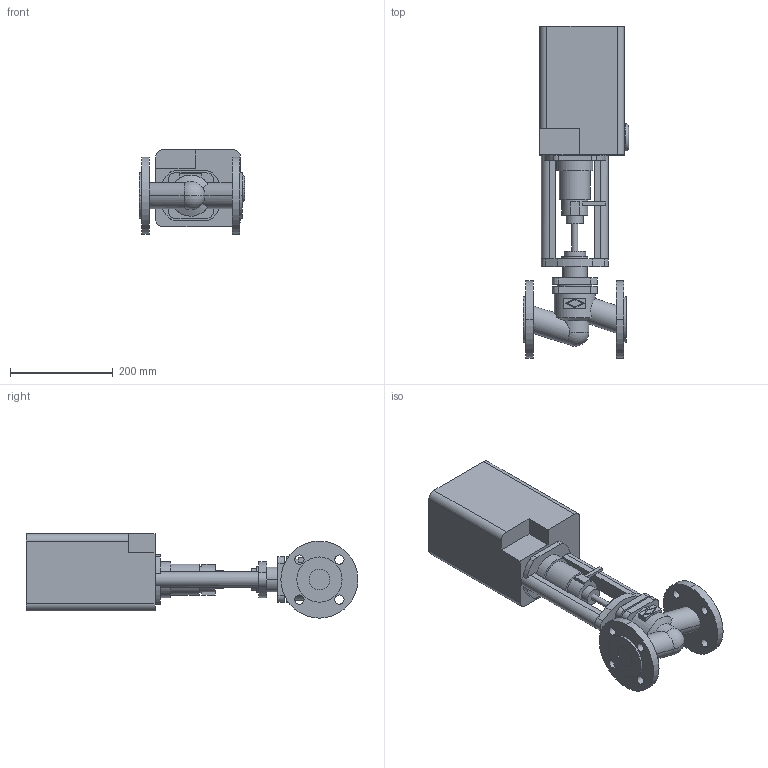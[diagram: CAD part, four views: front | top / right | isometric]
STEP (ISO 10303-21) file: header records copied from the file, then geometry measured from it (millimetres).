
FILE_DESCRIPTION(('OneSpaceDesigner STEP Export'),'2;1');
FILE_NAME('c000000350.stp','2005-02-16T11:35:04',(''),(''),'OneSpace Designer STEP processor (Jan. 2003) for AP203(Solid Model)','OneSpace Designer 12.01D 09-Jul-2004 (C) CoCreate Software GmbH','');
FILE_SCHEMA(('CONFIG_CONTROL_DESIGN'));
Length unit declared in the file: millimetre
Products named in the file (2): 1; 2
Bounding box: 204.6 x 646 x 164 mm (x, y, z)
Volume: 8253210 mm3; surface area: 442329.5 mm2
Topology: 2 solids, 2 shells, 174 faces, 441 edges, 292 vertices
Faces by surface type: plane 86, cylinder 82, cone 2, sphere 2, torus 2
Entity records: 5288 total; most frequent: CARTESIAN_POINT 1090, ORIENTED_EDGE 878, DIRECTION 778, EDGE_CURVE 439, VERTEX_POINT 292, AXIS2_PLACEMENT_3D 269, VECTOR 240, LINE 240
